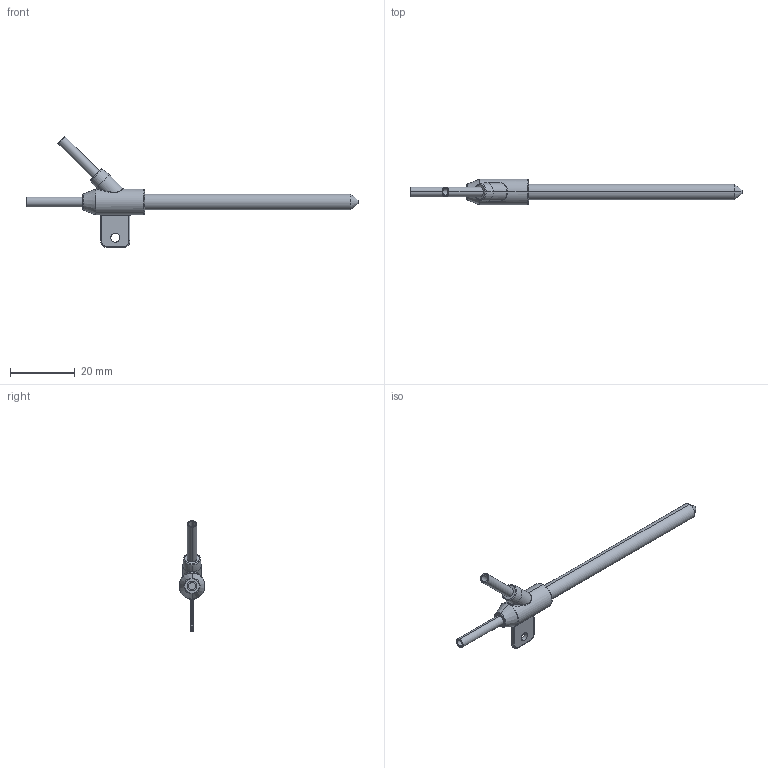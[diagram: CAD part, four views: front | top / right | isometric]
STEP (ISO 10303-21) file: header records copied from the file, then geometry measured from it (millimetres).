
FILE_DESCRIPTION (( 'STEP AP214' ), '1' );
FILE_NAME ('UV01.468339.103.346 WWW micro air pressure receiver.STEP', '2017-03-06T08:37:04', ( '' ), ( '' ), 'SwSTEP 2.0', 'SolidWorks 2017', '' );
FILE_SCHEMA (( 'AUTOMOTIVE_DESIGN' ));
Length unit declared in the file: millimetre
Products named in the file (1): UV01.468339.103.346 WWW micro air pressure receiver
Bounding box: 102.25 x 8 x 34.15 mm (x, y, z)
Volume: 2271.1 mm3; surface area: 2618.9 mm2
Topology: 1 solids, 1 shells, 70 faces, 159 edges, 94 vertices
Faces by surface type: cylinder 28, torus 17, plane 13, bspline 8, cone 4
Entity records: 2994 total; most frequent: CARTESIAN_POINT 832, DIRECTION 353, ORIENTED_EDGE 318, EDGE_CURVE 159, AXIS2_PLACEMENT_3D 155, VERTEX_POINT 94, CIRCLE 92, EDGE_LOOP 77
